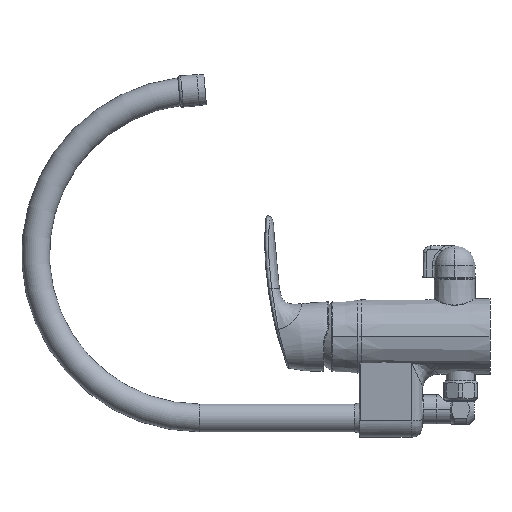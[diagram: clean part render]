
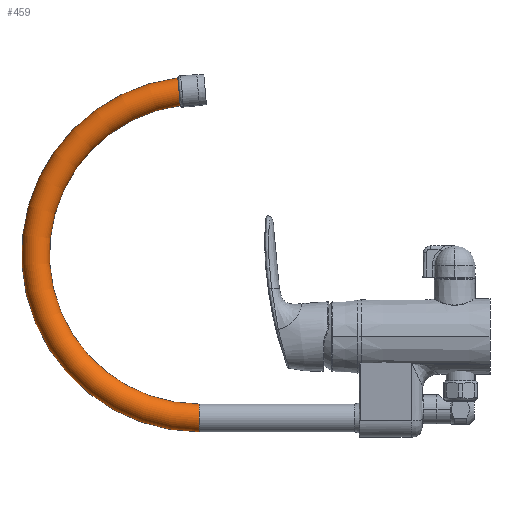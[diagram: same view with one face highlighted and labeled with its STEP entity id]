
A CAD part, left-side view. The second image highlights one B-rep face of the part: STEP entity #459.
In plain terms, the highlighted toroidal (fillet/blend) face has major radius 118 mm and minor radius 10 mm.
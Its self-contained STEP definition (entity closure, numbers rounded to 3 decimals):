
#459 = ADVANCED_FACE ( 'NONE', ( #13753 ), #3826, .T. ) ;
#1294 = EDGE_CURVE ( 'NONE', #10568, #18773, #3330, .T. ) ;
#1437 = CARTESIAN_POINT ( 'NONE',  ( -98.875, 406.921, 616.971 ) ) ;
#1509 = CARTESIAN_POINT ( 'NONE',  ( -93.429, 405.357, 599.091 ) ) ;
#1581 = CARTESIAN_POINT ( 'NONE',  ( -102.033, 405.894, 605.231 ) ) ;
#2261 = CARTESIAN_POINT ( 'NONE',  ( -92.776, 391.609, 363.953 ) ) ;
#2895 = CARTESIAN_POINT ( 'NONE',  ( -102.454, 406.454, 611.634 ) ) ;
#3104 = CARTESIAN_POINT ( 'NONE',  ( -95.056, 405.378, 599.332 ) ) ;
#3177 = CARTESIAN_POINT ( 'NONE',  ( -102.252, 405.948, 605.843 ) ) ;
#3330 = CIRCLE ( 'NONE', #9295, 128. ) ;
#3617 = CARTESIAN_POINT ( 'NONE',  ( -96.904, 407.023, 618.129 ) ) ;
#3826 = TOROIDAL_SURFACE ( 'NONE', #8639, 118., 10. ) ;
#4176 = ORIENTED_EDGE ( 'NONE', *, *, #5526, .F. ) ;
#4501 = CARTESIAN_POINT ( 'NONE',  ( -101.889, 406.588, 613.161 ) ) ;
#4723 = CARTESIAN_POINT ( 'NONE',  ( -97.222, 405.445, 600.091 ) ) ;
#4785 = CARTESIAN_POINT ( 'NONE',  ( -95.373, 407.072, 618.693 ) ) ;
#5261 = DIRECTION ( 'NONE',  ( -1., 0., 0. ) ) ;
#5526 = EDGE_CURVE ( 'NONE', #17479, #18773, #19199, .T. ) ;
#6088 = CARTESIAN_POINT ( 'NONE',  ( -101.438, 406.665, 614.036 ) ) ;
#6123 = DIRECTION ( 'NONE',  ( -1., 0., 0. ) ) ;
#6161 = CARTESIAN_POINT ( 'NONE',  ( -93.102, 405.356, 599.075 ) ) ;
#6230 = CARTESIAN_POINT ( 'NONE',  ( -92.776, 405.356, 599.075 ) ) ;
#6438 = EDGE_LOOP ( 'NONE', ( #16793, #16510, #4176, #14589 ) ) ;
#7614 = CARTESIAN_POINT ( 'NONE',  ( -97.796, 405.471, 600.398 ) ) ;
#7680 = CARTESIAN_POINT ( 'NONE',  ( -101.755, 405.843, 604.644 ) ) ;
#7754 = CARTESIAN_POINT ( 'NONE',  ( -101.447, 405.793, 604.069 ) ) ;
#7780 = CARTESIAN_POINT ( 'NONE',  ( -92.776, 391.609, 383.953 ) ) ;
#7865 = DIRECTION ( 'NONE',  ( 0., -1., 0. ) ) ;
#8429 = DIRECTION ( 'NONE',  ( -1., 0., 0. ) ) ;
#8639 = AXIS2_PLACEMENT_3D ( 'NONE', #15792, #8429, #9793 ) ;
#9065 = CARTESIAN_POINT ( 'NONE',  ( -92.776, 407.1, 619.013 ) ) ;
#9275 = CARTESIAN_POINT ( 'NONE',  ( -102.776, 406.285, 609.698 ) ) ;
#9295 = AXIS2_PLACEMENT_3D ( 'NONE', #14775, #5261, #18370 ) ;
#9347 = CARTESIAN_POINT ( 'NONE',  ( -102.522, 406.03, 606.788 ) ) ;
#9485 = CARTESIAN_POINT ( 'NONE',  ( -99.627, 405.592, 601.775 ) ) ;
#9698 = CARTESIAN_POINT ( 'NONE',  ( -93.429, 407.099, 618.997 ) ) ;
#9793 = DIRECTION ( 'NONE',  ( 0., -1., 0. ) ) ;
#10568 = VERTEX_POINT ( 'NONE', #13960 ) ;
#10818 = CARTESIAN_POINT ( 'NONE',  ( -102.71, 406.343, 610.358 ) ) ;
#10961 = CARTESIAN_POINT ( 'NONE',  ( -95.996, 407.056, 618.504 ) ) ;
#10965 = CARTESIAN_POINT ( 'NONE',  ( -99.38, 406.885, 616.559 ) ) ;
#11114 = CARTESIAN_POINT ( 'NONE',  ( -100.317, 405.652, 602.465 ) ) ;
#12418 = CARTESIAN_POINT ( 'NONE',  ( -98.611, 405.519, 600.942 ) ) ;
#12425 = EDGE_CURVE ( 'NONE', #18551, #17479, #15666, .T. ) ;
#12494 = CARTESIAN_POINT ( 'NONE',  ( -96.316, 405.412, 599.715 ) ) ;
#12642 = CARTESIAN_POINT ( 'NONE',  ( -94.411, 405.367, 599.204 ) ) ;
#12702 = CARTESIAN_POINT ( 'NONE',  ( -102.713, 406.115, 607.751 ) ) ;
#12813 = B_SPLINE_CURVE_WITH_KNOTS ( 'NONE', 3,
 ( #6230, #6161, #1509, #20613, #12642, #3104, #17279, #14214, #12494, #4723, #7614, #12418, #19006, #14070, #9485, #11114, #17208, #15681, #7754, #7680, #1581, #3177, #18863, #9347, #12702, #18718, #9275, #10818, #2895, #13989, #4501, #15617, #6088, #20467, #18797, #20389, #10965, #1437, #14826, #16886, #19233, #3617, #10961, #4785, #19550, #15935, #9698, #20120, #9065 ),
 .UNSPECIFIED., .F., .F.,
 ( 4, 2, 2, 2, 2, 2, 2, 2, 2, 2, 1, 2, 2, 2, 2, 2, 2, 2, 2, 2, 2, 2, 2, 2, 4 ),
 ( 0.059, 0.06, 0.061, 0.062, 0.063, 0.065, 0.066, 0.067, 0.069, 0.07, 0.071, 0.072, 0.073, 0.075, 0.077, 0.079, 0.08, 0.081, 0.083, 0.085, 0.086, 0.087, 0.089, 0.09, 0.091 ),
 .UNSPECIFIED. ) ;
#13103 = CARTESIAN_POINT ( 'NONE',  ( -92.776, 405.356, 599.075 ) ) ;
#13753 = FACE_OUTER_BOUND ( 'NONE', #6438, .T. ) ;
#13960 = CARTESIAN_POINT ( 'NONE',  ( -92.776, 407.1, 619.013 ) ) ;
#13989 = CARTESIAN_POINT ( 'NONE',  ( -102.265, 406.509, 612.255 ) ) ;
#14070 = CARTESIAN_POINT ( 'NONE',  ( -99.385, 405.573, 601.555 ) ) ;
#14214 = CARTESIAN_POINT ( 'NONE',  ( -96.004, 405.402, 599.603 ) ) ;
#14589 = ORIENTED_EDGE ( 'NONE', *, *, #12425, .F. ) ;
#14775 = CARTESIAN_POINT ( 'NONE',  ( -92.776, 391.609, 491.953 ) ) ;
#14826 = CARTESIAN_POINT ( 'NONE',  ( -98.063, 406.969, 617.512 ) ) ;
#15363 = AXIS2_PLACEMENT_3D ( 'NONE', #20426, #6123, #15929 ) ;
#15617 = CARTESIAN_POINT ( 'NONE',  ( -101.748, 406.614, 613.459 ) ) ;
#15666 = CIRCLE ( 'NONE', #15363, 108. ) ;
#15681 = CARTESIAN_POINT ( 'NONE',  ( -101.278, 405.768, 603.786 ) ) ;
#15792 = CARTESIAN_POINT ( 'NONE',  ( -92.776, 391.609, 491.953 ) ) ;
#15929 = DIRECTION ( 'NONE',  ( 0., 0., 1. ) ) ;
#15935 = CARTESIAN_POINT ( 'NONE',  ( -94.085, 407.093, 618.932 ) ) ;
#16510 = ORIENTED_EDGE ( 'NONE', *, *, #1294, .T. ) ;
#16793 = ORIENTED_EDGE ( 'NONE', *, *, #19841, .T. ) ;
#16886 = CARTESIAN_POINT ( 'NONE',  ( -97.783, 406.983, 617.679 ) ) ;
#17208 = CARTESIAN_POINT ( 'NONE',  ( -100.73, 405.696, 602.967 ) ) ;
#17279 = CARTESIAN_POINT ( 'NONE',  ( -95.374, 405.385, 599.412 ) ) ;
#17453 = DIRECTION ( 'NONE',  ( 0., 0., 1. ) ) ;
#17479 = VERTEX_POINT ( 'NONE', #7780 ) ;
#17876 = AXIS2_PLACEMENT_3D ( 'NONE', #20354, #7865, #17453 ) ;
#18370 = DIRECTION ( 'NONE',  ( 0., 0., 1. ) ) ;
#18551 = VERTEX_POINT ( 'NONE', #13103 ) ;
#18718 = CARTESIAN_POINT ( 'NONE',  ( -102.776, 406.171, 608.398 ) ) ;
#18773 = VERTEX_POINT ( 'NONE', #2261 ) ;
#18797 = CARTESIAN_POINT ( 'NONE',  ( -100.727, 406.76, 615.124 ) ) ;
#18863 = CARTESIAN_POINT ( 'NONE',  ( -102.441, 406.002, 606.468 ) ) ;
#19006 = CARTESIAN_POINT ( 'NONE',  ( -98.876, 405.536, 601.139 ) ) ;
#19199 = CIRCLE ( 'NONE', #17876, 10. ) ;
#19233 = CARTESIAN_POINT ( 'NONE',  ( -97.204, 407.01, 617.988 ) ) ;
#19550 = CARTESIAN_POINT ( 'NONE',  ( -94.411, 407.089, 618.884 ) ) ;
#19841 = EDGE_CURVE ( 'NONE', #18551, #10568, #12813, .T. ) ;
#20120 = CARTESIAN_POINT ( 'NONE',  ( -93.102, 407.1, 619.013 ) ) ;
#20354 = CARTESIAN_POINT ( 'NONE',  ( -92.776, 391.609, 373.953 ) ) ;
#20389 = CARTESIAN_POINT ( 'NONE',  ( -100.313, 406.804, 615.628 ) ) ;
#20426 = CARTESIAN_POINT ( 'NONE',  ( -92.776, 391.609, 491.953 ) ) ;
#20467 = CARTESIAN_POINT ( 'NONE',  ( -101.27, 406.689, 614.315 ) ) ;
#20613 = CARTESIAN_POINT ( 'NONE',  ( -94.084, 405.363, 599.155 ) ) ;
